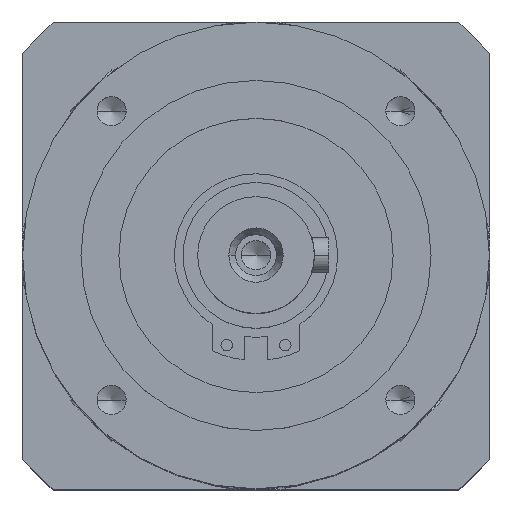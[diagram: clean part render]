
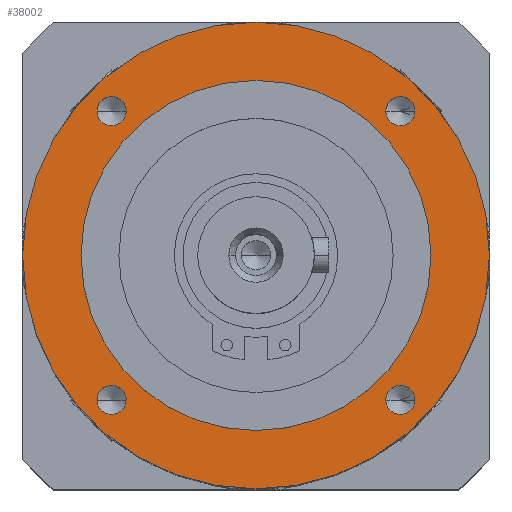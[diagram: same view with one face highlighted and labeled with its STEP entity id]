
A CAD part, top view. The second image highlights one B-rep face of the part: STEP entity #38002.
In plain terms, the highlighted planar face has unit normal (0, 0, 1).
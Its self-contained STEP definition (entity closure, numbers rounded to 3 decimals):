
#239 = CARTESIAN_POINT ( 'NONE',  ( 27.249, -24.749, 15. ) ) ;
#773 = VERTEX_POINT ( 'NONE', #239 ) ;
#1205 = AXIS2_PLACEMENT_3D ( 'NONE', #41068, #22070, #2493 ) ;
#2002 = VERTEX_POINT ( 'NONE', #14441 ) ;
#2415 = FACE_BOUND ( 'NONE', #7490, .T. ) ;
#2493 = DIRECTION ( 'NONE',  ( 1., 0., 0. ) ) ;
#2530 = EDGE_CURVE ( 'NONE', #19707, #19005, #34912, .T. ) ;
#2798 = AXIS2_PLACEMENT_3D ( 'NONE', #24859, #28038, #8693 ) ;
#3009 = ORIENTED_EDGE ( 'NONE', *, *, #2530, .F. ) ;
#3135 = DIRECTION ( 'NONE',  ( 1., 0., 0. ) ) ;
#3488 = ORIENTED_EDGE ( 'NONE', *, *, #16628, .F. ) ;
#4184 = EDGE_CURVE ( 'NONE', #19005, #19707, #40292, .T. ) ;
#4818 = VERTEX_POINT ( 'NONE', #19718 ) ;
#4930 = EDGE_LOOP ( 'NONE', ( #39498, #33935 ) ) ;
#5053 = ORIENTED_EDGE ( 'NONE', *, *, #7227, .F. ) ;
#5243 = DIRECTION ( 'NONE',  ( 0., 0., 1. ) ) ;
#5959 = CIRCLE ( 'NONE', #1205, 2.5 ) ;
#6263 = AXIS2_PLACEMENT_3D ( 'NONE', #6477, #29099, #9802 ) ;
#6451 = EDGE_LOOP ( 'NONE', ( #14364, #3009 ) ) ;
#6477 = CARTESIAN_POINT ( 'NONE',  ( 0., 0., 15. ) ) ;
#7089 = DIRECTION ( 'NONE',  ( 0., 0., -1. ) ) ;
#7227 = EDGE_CURVE ( 'NONE', #32853, #7681, #37155, .T. ) ;
#7490 = EDGE_LOOP ( 'NONE', ( #10612, #39171 ) ) ;
#7591 = AXIS2_PLACEMENT_3D ( 'NONE', #41680, #22675, #3135 ) ;
#7670 = VERTEX_POINT ( 'NONE', #17816 ) ;
#7681 = VERTEX_POINT ( 'NONE', #21061 ) ;
#7843 = CARTESIAN_POINT ( 'NONE',  ( -24.749, -24.749, 15. ) ) ;
#8693 = DIRECTION ( 'NONE',  ( -1., 0., 0. ) ) ;
#9499 = AXIS2_PLACEMENT_3D ( 'NONE', #28983, #9681, #32127 ) ;
#9681 = DIRECTION ( 'NONE',  ( 0., 0., 1. ) ) ;
#9695 = CARTESIAN_POINT ( 'NONE',  ( 22.249, -24.749, 15. ) ) ;
#9802 = DIRECTION ( 'NONE',  ( 1., 0., 0. ) ) ;
#10124 = AXIS2_PLACEMENT_3D ( 'NONE', #26800, #26689, #26567 ) ;
#10137 = DIRECTION ( 'NONE',  ( 0., 0., 1. ) ) ;
#10594 = VERTEX_POINT ( 'NONE', #37495 ) ;
#10612 = ORIENTED_EDGE ( 'NONE', *, *, #11923, .F. ) ;
#10739 = CIRCLE ( 'NONE', #13563, 2.5 ) ;
#11129 = ORIENTED_EDGE ( 'NONE', *, *, #20199, .F. ) ;
#11140 = DIRECTION ( 'NONE',  ( 0., 0., 1. ) ) ;
#11174 = DIRECTION ( 'NONE',  ( 1., 0., 0. ) ) ;
#11319 = DIRECTION ( 'NONE',  ( 0., 0., 1. ) ) ;
#11923 = EDGE_CURVE ( 'NONE', #28068, #4818, #26101, .T. ) ;
#12366 = VERTEX_POINT ( 'NONE', #9695 ) ;
#13415 = CIRCLE ( 'NONE', #6263, 30. ) ;
#13563 = AXIS2_PLACEMENT_3D ( 'NONE', #29426, #10137, #32570 ) ;
#14131 = ORIENTED_EDGE ( 'NONE', *, *, #29929, .F. ) ;
#14192 = CIRCLE ( 'NONE', #29973, 2.5 ) ;
#14364 = ORIENTED_EDGE ( 'NONE', *, *, #4184, .F. ) ;
#14441 = CARTESIAN_POINT ( 'NONE',  ( 30., 0., 15. ) ) ;
#14631 = EDGE_CURVE ( 'NONE', #773, #12366, #15444, .T. ) ;
#15177 = AXIS2_PLACEMENT_3D ( 'NONE', #7843, #30407, #11174 ) ;
#15415 = CIRCLE ( 'NONE', #34819, 40. ) ;
#15444 = CIRCLE ( 'NONE', #9499, 2.5 ) ;
#16628 = EDGE_CURVE ( 'NONE', #7681, #32853, #10739, .T. ) ;
#16978 = CARTESIAN_POINT ( 'NONE',  ( 0., 0., 15. ) ) ;
#17816 = CARTESIAN_POINT ( 'NONE',  ( -30., 0., 15. ) ) ;
#18853 = FACE_BOUND ( 'NONE', #6451, .T. ) ;
#18986 = VERTEX_POINT ( 'NONE', #24617 ) ;
#19005 = VERTEX_POINT ( 'NONE', #34124 ) ;
#19064 = EDGE_CURVE ( 'NONE', #12366, #773, #5959, .T. ) ;
#19223 = EDGE_CURVE ( 'NONE', #18986, #10594, #37150, .T. ) ;
#19707 = VERTEX_POINT ( 'NONE', #32126 ) ;
#19718 = CARTESIAN_POINT ( 'NONE',  ( -27.249, -24.749, 15. ) ) ;
#19865 = FACE_BOUND ( 'NONE', #41629, .T. ) ;
#20199 = EDGE_CURVE ( 'NONE', #2002, #7670, #37603, .T. ) ;
#20236 = DIRECTION ( 'NONE',  ( 1., 0., 0. ) ) ;
#20805 = EDGE_CURVE ( 'NONE', #10594, #18986, #15415, .T. ) ;
#20873 = EDGE_LOOP ( 'NONE', ( #29657, #29009 ) ) ;
#20908 = CARTESIAN_POINT ( 'NONE',  ( 27.249, 24.749, 15. ) ) ;
#20988 = AXIS2_PLACEMENT_3D ( 'NONE', #26497, #7089, #29686 ) ;
#21061 = CARTESIAN_POINT ( 'NONE',  ( 22.249, 24.749, 15. ) ) ;
#21628 = PLANE ( 'NONE',  #2798 ) ;
#22070 = DIRECTION ( 'NONE',  ( 0., 0., 1. ) ) ;
#22675 = DIRECTION ( 'NONE',  ( 0., 0., 1. ) ) ;
#23439 = AXIS2_PLACEMENT_3D ( 'NONE', #30379, #11140, #33537 ) ;
#24617 = CARTESIAN_POINT ( 'NONE',  ( 40., 0., 15. ) ) ;
#24737 = CARTESIAN_POINT ( 'NONE',  ( -24.749, -24.749, 15. ) ) ;
#24859 = CARTESIAN_POINT ( 'NONE',  ( 0., 52.5, 15. ) ) ;
#26101 = CIRCLE ( 'NONE', #15177, 2.5 ) ;
#26497 = CARTESIAN_POINT ( 'NONE',  ( 0., 0., 15. ) ) ;
#26567 = DIRECTION ( 'NONE',  ( 1., 0., 0. ) ) ;
#26689 = DIRECTION ( 'NONE',  ( 0., 0., 1. ) ) ;
#26800 = CARTESIAN_POINT ( 'NONE',  ( -24.749, 24.749, 15. ) ) ;
#27324 = FACE_BOUND ( 'NONE', #40210, .T. ) ;
#27928 = DIRECTION ( 'NONE',  ( 1., 0., 0. ) ) ;
#28038 = DIRECTION ( 'NONE',  ( 0., 0., -1. ) ) ;
#28068 = VERTEX_POINT ( 'NONE', #39870 ) ;
#28983 = CARTESIAN_POINT ( 'NONE',  ( 24.749, -24.749, 15. ) ) ;
#29009 = ORIENTED_EDGE ( 'NONE', *, *, #20805, .F. ) ;
#29099 = DIRECTION ( 'NONE',  ( 0., 0., 1. ) ) ;
#29426 = CARTESIAN_POINT ( 'NONE',  ( 24.749, 24.749, 15. ) ) ;
#29657 = ORIENTED_EDGE ( 'NONE', *, *, #19223, .F. ) ;
#29686 = DIRECTION ( 'NONE',  ( 1., 0., 0. ) ) ;
#29929 = EDGE_CURVE ( 'NONE', #7670, #2002, #13415, .T. ) ;
#29973 = AXIS2_PLACEMENT_3D ( 'NONE', #24737, #5243, #27928 ) ;
#30379 = CARTESIAN_POINT ( 'NONE',  ( 24.749, 24.749, 15. ) ) ;
#30407 = DIRECTION ( 'NONE',  ( 0., 0., 1. ) ) ;
#30545 = CARTESIAN_POINT ( 'NONE',  ( -24.749, 24.749, 15. ) ) ;
#30615 = AXIS2_PLACEMENT_3D ( 'NONE', #30545, #11319, #33716 ) ;
#32126 = CARTESIAN_POINT ( 'NONE',  ( -27.249, 24.749, 15. ) ) ;
#32127 = DIRECTION ( 'NONE',  ( 1., 0., 0. ) ) ;
#32570 = DIRECTION ( 'NONE',  ( 1., 0., 0. ) ) ;
#32853 = VERTEX_POINT ( 'NONE', #20908 ) ;
#33537 = DIRECTION ( 'NONE',  ( 1., 0., 0. ) ) ;
#33716 = DIRECTION ( 'NONE',  ( 1., 0., 0. ) ) ;
#33935 = ORIENTED_EDGE ( 'NONE', *, *, #19064, .F. ) ;
#34124 = CARTESIAN_POINT ( 'NONE',  ( -22.249, 24.749, 15. ) ) ;
#34819 = AXIS2_PLACEMENT_3D ( 'NONE', #16978, #39232, #20236 ) ;
#34912 = CIRCLE ( 'NONE', #10124, 2.5 ) ;
#35751 = FACE_BOUND ( 'NONE', #4930, .T. ) ;
#37150 = CIRCLE ( 'NONE', #20988, 40. ) ;
#37155 = CIRCLE ( 'NONE', #23439, 2.5 ) ;
#37495 = CARTESIAN_POINT ( 'NONE',  ( -40., 0., 15. ) ) ;
#37603 = CIRCLE ( 'NONE', #7591, 30. ) ;
#37757 = FACE_OUTER_BOUND ( 'NONE', #20873, .T. ) ;
#38002 = ADVANCED_FACE ( 'NONE', ( #37757, #19865, #2415, #35751, #27324, #18853 ), #21628, .F. ) ;
#39171 = ORIENTED_EDGE ( 'NONE', *, *, #39835, .F. ) ;
#39232 = DIRECTION ( 'NONE',  ( 0., 0., -1. ) ) ;
#39498 = ORIENTED_EDGE ( 'NONE', *, *, #14631, .F. ) ;
#39835 = EDGE_CURVE ( 'NONE', #4818, #28068, #14192, .T. ) ;
#39870 = CARTESIAN_POINT ( 'NONE',  ( -22.249, -24.749, 15. ) ) ;
#40210 = EDGE_LOOP ( 'NONE', ( #5053, #3488 ) ) ;
#40292 = CIRCLE ( 'NONE', #30615, 2.5 ) ;
#41068 = CARTESIAN_POINT ( 'NONE',  ( 24.749, -24.749, 15. ) ) ;
#41629 = EDGE_LOOP ( 'NONE', ( #11129, #14131 ) ) ;
#41680 = CARTESIAN_POINT ( 'NONE',  ( 0., 0., 15. ) ) ;
